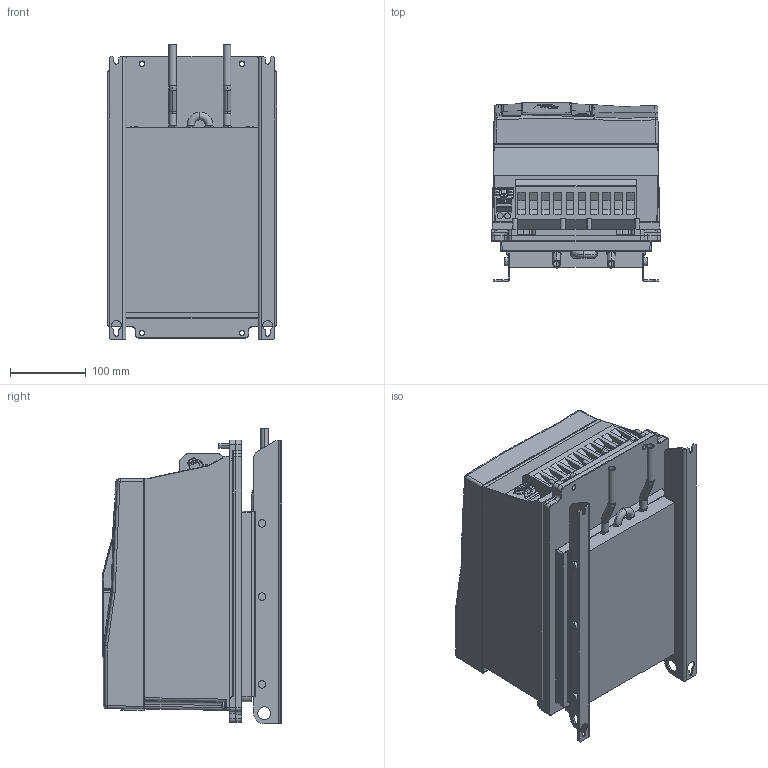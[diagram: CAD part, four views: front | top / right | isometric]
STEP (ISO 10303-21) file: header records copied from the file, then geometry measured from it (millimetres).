
FILE_DESCRIPTION (( 'STEP AP214' ), '1' );
FILE_NAME ('F6-4TW0-P150.STEP', '2020-12-09T12:43:14', ( '' ), ( '' ), 'SwSTEP 2.0', 'SolidWorks 2019', '' );
FILE_SCHEMA (( 'AUTOMOTIVE_DESIGN' ));
Length unit declared in the file: millimetre
Products named in the file (12): 10045828_000_Basis Leistungsteil TW0 (Kundenmodell); 10059762_000_Kundenmodell mit Geberbuchsen; 10059765_000; 10059764_000_Blindabdeckung (Kundenmodell); F6-4TW0-P150; 10001537_000; 10058448_000; 10061645_000; 10061792_000; 10051076_000_Kundenmodell; 10061644_000_Deckel (Kundenmodell); 10032600_000_Kundenmodell
Assembly tree (13 placements, depth 4):
  F6-4TW0-P150
    10045828_000_Basis Leistungsteil TW0 (Kundenmodell)
      10061792_000
    10032600_000_Kundenmodell
      10061644_000_Deckel (Kundenmodell)
        10061645_000
      10001537_000  x3
      10058448_000
    10051076_000_Kundenmodell
      10059764_000_Blindabdeckung (Kundenmodell)
        10059765_000
      10059762_000_Kundenmodell mit Geberbuchsen
Bounding box: 224 x 237.2 x 391.2 mm (x, y, z)
Volume: 14096642.5 mm3; surface area: 880508.8 mm2
Topology: 17 solids, 32 shells, 2628 faces, 6947 edges, 4413 vertices
Faces by surface type: plane 1132, cylinder 631, bspline 545, torus 165, cone 109, sphere 46
Entity records: 101405 total; most frequent: CARTESIAN_POINT 41263, ORIENTED_EDGE 13408, DIRECTION 10968, EDGE_CURVE 6704, VERTEX_POINT 4295, AXIS2_PLACEMENT_3D 3663, LINE 3642, VECTOR 3642
